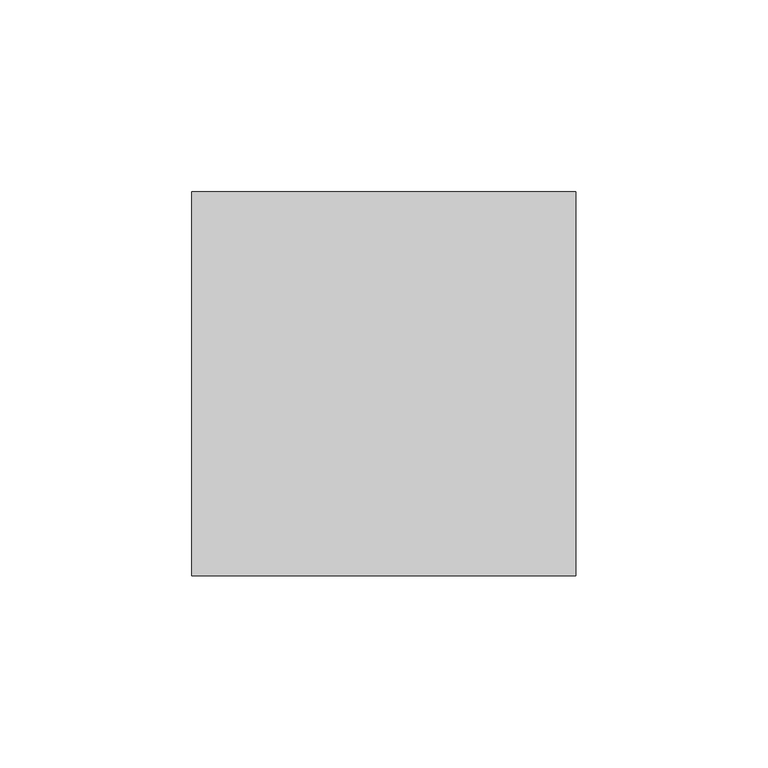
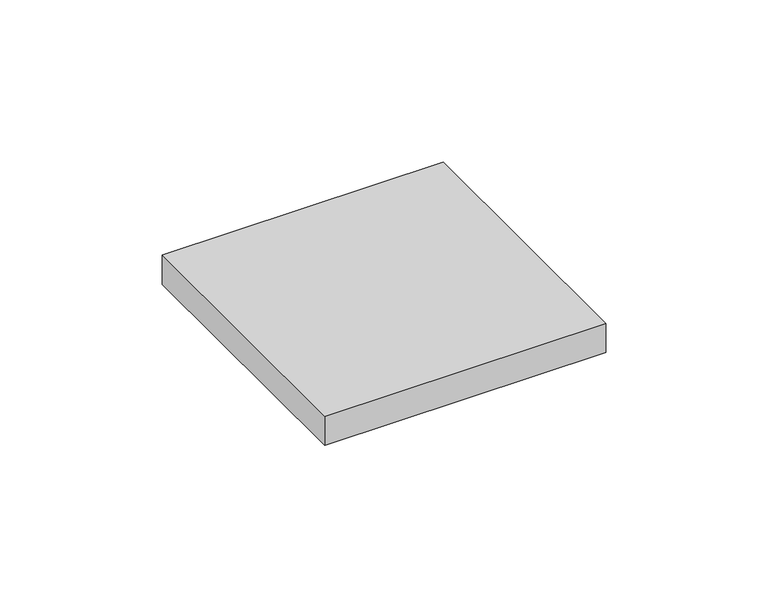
"""IFC4 building model written with IfcOpenShell, lengths in millimetres: sanitary terminal geometry, NLRS_PF_52_UN_Aqua Quattro_in_uitloop_Easydrain : Aqua Quattro onderuitloop 50mm, zij-ingang 40mm."""

from ifc_helpers import new_model, si_unit, frame, origin, place, context, project, spatial, polyline, outline, extrude, source, transform, mapped, element, save


def sanitary_terminal_f8d560c6(model_context):
    return source(origin(), model_context, "Body", "SweptSolid", [
        extrude(outline(polyline([(50.0, 50.0), (50.0, -50.0), (-50.0, -50.0), (-50.0, 50.0), (50.0, 50.0)])), frame((0.0, 0.0, -11.0), z_axis=(0.0, 0.0, 1.0), x_axis=(1.0, 0.0, 0.0)), (0.0, 0.0, 1.0), 11.0),
    ])


if __name__ == "__main__":
    model = new_model("IFC4")
    model_context = context("Model", 3, world=origin())
    ifc_project = project(units=[si_unit("LENGTHUNIT", "METRE", prefix="MILLI")], contexts=[model_context])
    site = spatial("IfcSite", under=ifc_project)
    building = spatial("IfcBuilding", under=site)
    placement = place(None, origin())
    sanitary_terminal_shape = sanitary_terminal_f8d560c6(model_context)
    element("IfcSanitaryTerminal", 1, ObjectType="NLRS_PF_52_UN_Aqua Quattro_in_uitloop_Easydrain : Aqua Quattro onderuitloop 50mm, zij-ingang 40mm", at=placement, inside=building, context=model_context, shape_type="MappedRepresentation", body=[
        mapped(sanitary_terminal_shape, transform((0.0, 0.0, 0.0), x_axis=(1.0, 0.0, 0.0), y_axis=(0.0, 1.0, 0.0), z_axis=(0.0, 0.0, 1.0))),
    ])
    save(model, "model.ifc")
